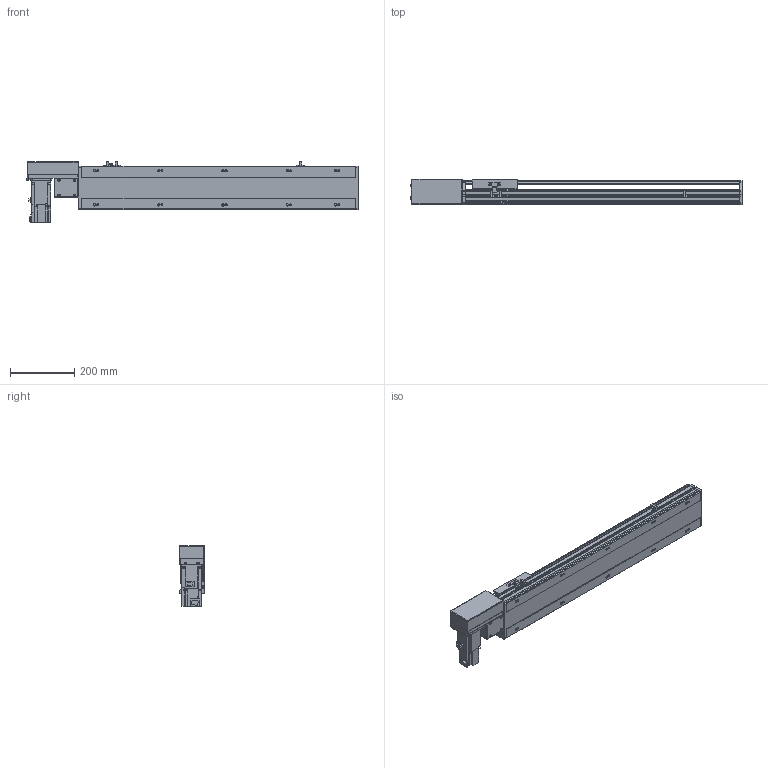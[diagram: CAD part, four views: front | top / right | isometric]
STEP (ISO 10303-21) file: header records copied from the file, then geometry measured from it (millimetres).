
FILE_DESCRIPTION( ( 'STEP AP214' ), '1' );
FILE_NAME( 'x:/temp/worker_27/temp/exporttempdir_6708_364_Yh66j/format_0/PBS140-P40-S600-R-T40-C1-N(0).stp', '2022-06-06T01:27:10', ( 'License CC BY-ND 4.0' ), ( 'CADENAS' ), ' ', 'PARTsolutions', ' ' );
FILE_SCHEMA( ( 'AUTOMOTIVE_DESIGN { 1 0 10303 214 1 1 1 1 }' ) );
Length unit declared in the file: millimetre
Products named in the file (7): PBS140-P40-S600-R-T40-C1-N(0); _PBS140-S600()_body; _PBS140T-R_motors; _T40-p1; _PBS140_sliser; _PBS140_plant; _PBS140_sensor
Assembly tree (8 placements, depth 2):
  PBS140-P40-S600-R-T40-C1-N(0)
    _PBS140-S600()_body
    _PBS140T-R_motors
    _T40-p1
    _PBS140_sliser
    _PBS140_plant
    _PBS140_sensor  x3
Bounding box: 1033 x 80.5 x 189.7 mm (x, y, z)
Volume: 4836703.2 mm3; surface area: 862077.7 mm2
Topology: 8 solids, 8 shells, 1027 faces, 2716 edges, 1775 vertices
Faces by surface type: plane 674, cylinder 307, cone 36, sphere 8, torus 2
Full cylindrical faces by diameter (mm): 3.242 x4, 4 x2, 4.134 x4, 4.4 x8, 4.5 x2, 4.8 x4, 4.917 x18, 5.5 x7, 6 x2, 7 x12, 7.5 x8, 8 x12, 8.5 x4, 10.5 x10, 14 x1, 30 x2, 50 x2
Entity records: 37363 total; most frequent: CARTESIAN_POINT 5747, DIRECTION 4987, ORIENTED_EDGE 4732, EDGE_CURVE 2366, AXIS2_PLACEMENT_3D 1717, VERTEX_POINT 1629, LINE 1553, VECTOR 1553
